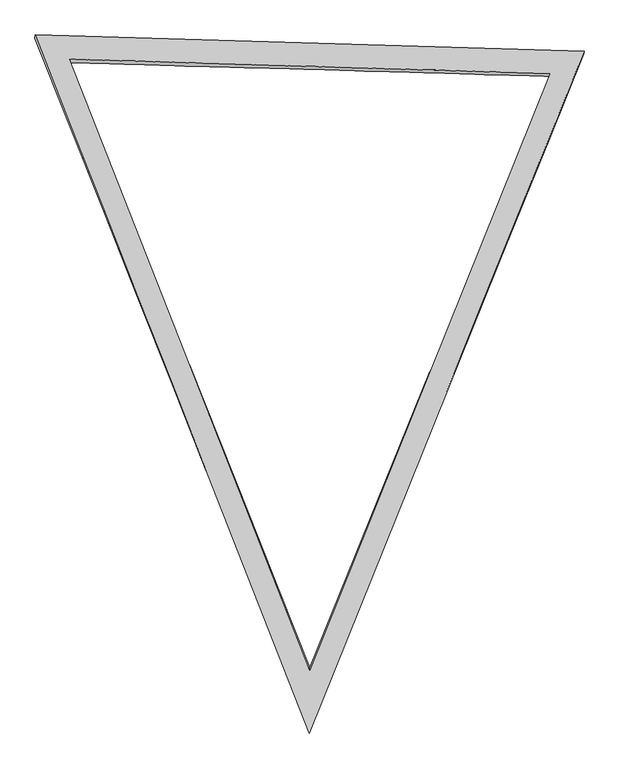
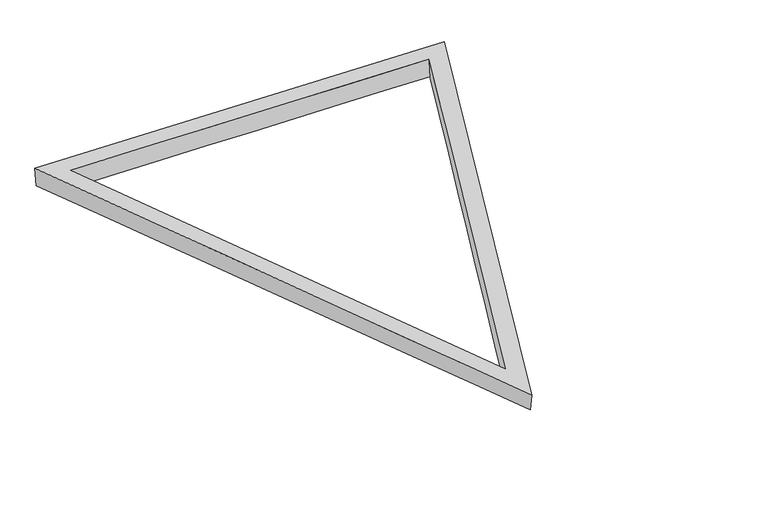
"""IFC4 building model written with IfcOpenShell, lengths in millimetres: plate geometry."""

from ifc_helpers import new_model, si_unit, frame, origin, place, context, project, spatial, source, transform, mapped, element, save
from ifc_brep_helpers import plane_surface, spline_surface, advanced_brep


def plate_698bdfbc(model_context):
    return source(origin(), model_context, "Body", "AdvancedBrep", [
        advanced_brep(
        [(3998.5963457, 6928.7613995, 0.0), (3998.470502, 6959.4299371, 200.8661509), (6096.720839, 1617.0932826, 201.4258312), (6098.1336382, 1639.5370938, 0.0), (8199.3170757, 6833.8546217, 201.8304416), (8197.6709306, 6810.4080428, 0.0), (6096.0, 1094.1488865, 0.0), (8496.1052145, 7005.2771968, 0.0), (8496.7528343, 7028.2541842, 201.8957123), (6094.2801568, 1067.4680082, 201.4333956), (3695.8947855, 7140.5739166, 0.0), (3696.7731999, 7171.7392998, 200.7938925)],
        [
            (0, 1),
            (1, 2),
            (2, 3),
            (3, 0),
            (2, 4),
            (4, 5),
            (5, 3),
            (0, 5),
            (4, 1),
            (6, 7),
            (7, 8),
            (8, 9),
            (9, 6),
            (7, 10),
            (10, 11),
            (11, 8),
            (9, 11),
            (10, 6),
        ],
        [
            spline_surface(1, 1, [[(3998.5963457, 6928.7613995, 0.0), (6098.1336382, 1639.5370938, 0.0)], [(3998.470502, 6959.4299371, 200.8661509), (6096.720839, 1617.0932826, 201.4258312)]], [2, 2], [2, 2], [0.0, 1.0], [0.0, 1.0]),
            spline_surface(1, 1, [[(6098.1336382, 1639.5370938, 0.0), (8197.6709306, 6810.4080428, 0.0)], [(6096.720839, 1617.0932826, 201.4258312), (8199.3170757, 6833.8546217, 201.8304416)]], [2, 2], [2, 2], [0.0, 1.0], [0.0, 1.0]),
            spline_surface(1, 1, [[(8197.6709306, 6810.4080428, 0.0), (3998.5963457, 6928.7613995, 0.0)], [(8199.3170757, 6833.8546217, 201.8304416), (3998.470502, 6959.4299371, 200.8661509)]], [2, 2], [2, 2], [0.0, 1.0], [0.0, 1.0]),
            spline_surface(1, 1, [[(6096.0, 1094.1488865, 0.0), (6094.2801568, 1067.4680082, 201.4333956)], [(8496.1052145, 7005.2771968, 0.0), (8496.7528343, 7028.2541842, 201.8957123)]], [2, 2], [2, 2], [0.0, 1.0], [0.0, 1.0]),
            spline_surface(1, 1, [[(8496.1052145, 7005.2771968, 0.0), (8496.7528343, 7028.2541842, 201.8957123)], [(3695.8947855, 7140.5739166, 0.0), (3696.7731999, 7171.7392998, 200.7938925)]], [2, 2], [2, 2], [0.0, 1.0], [0.0, 1.0]),
            spline_surface(1, 1, [[(3695.8947855, 7140.5739166, 0.0), (3696.7731999, 7171.7392998, 200.7938925)], [(6096.0, 1094.1488865, 0.0), (6094.2801568, 1067.4680082, 201.4333956)]], [2, 2], [2, 2], [0.0, 1.0], [0.0, 1.0]),
            plane_surface(frame((6095.935397, 5089.1538307, 201.3743335), z_axis=(-0.0002291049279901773, 1.4780208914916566e-05, 0.9999999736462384), x_axis=(0.3655731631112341, -0.9307826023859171, 9.751177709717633e-05))),
            plane_surface(frame((6096.0, 5080.0, 0.0), z_axis=(0.0, 0.0, -1.0), x_axis=(-0.3689424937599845, 0.9294522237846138, 0.0))),
        ],
        [
            (0, [[1, 2, 3, 4]]),
            (1, [[-3, 5, 6, 7]]),
            (2, [[-1, 8, -6, 9]]),
            (3, [[10, 11, 12, 13]]),
            (4, [[-11, 14, 15, 16]]),
            (5, [[-13, 17, -15, 18]]),
            (6, [[-12, -16, -17], [-2, -9, -5]]),
            (7, [[-10, -18, -14], [-4, -7, -8]]),
        ],
    ),
    ])


if __name__ == "__main__":
    model = new_model("IFC4")
    model_context = context("Model", 3, world=origin())
    ifc_project = project(units=[si_unit("LENGTHUNIT", "METRE", prefix="MILLI")], contexts=[model_context])
    site = spatial("IfcSite", under=ifc_project)
    building = spatial("IfcBuilding", under=site)
    placement = place(None, origin())
    plate_shape = plate_698bdfbc(model_context)
    element("IfcPlate", 1, ObjectType="tn_cpanel_patbase_triangle_flat_seamless_frame_02_cylinder : tn_triangle_seamless_frame_t8\"xh8\"", at=placement, inside=building, context=model_context, shape_type="MappedRepresentation", body=[
        mapped(plate_shape, transform((0.0, 0.0, 0.0), x_axis=(1.0, 0.0, 0.0), y_axis=(0.0, 1.0, 0.0), z_axis=(0.0, 0.0, 1.0))),
    ])
    save(model, "model.ifc")
